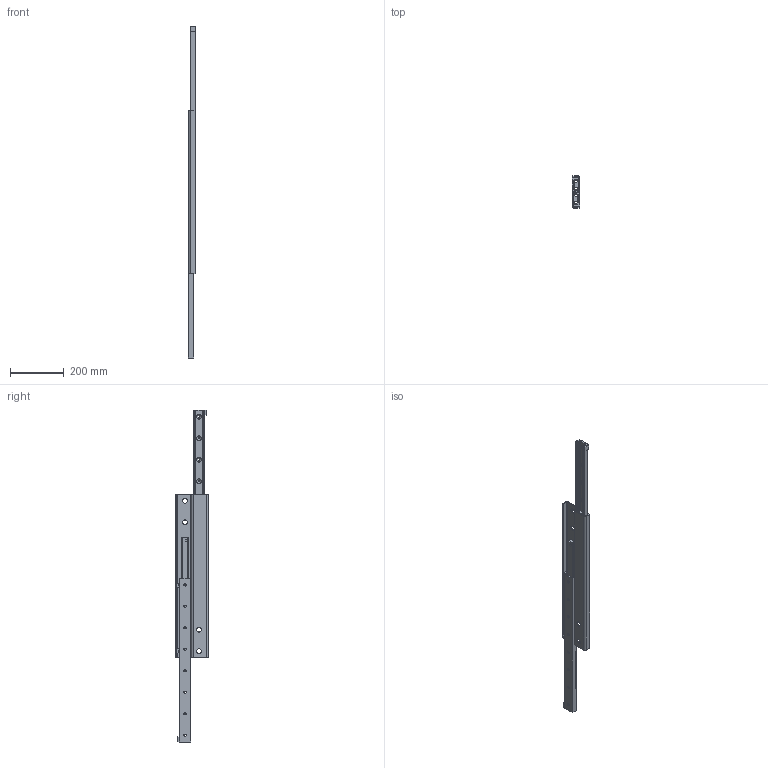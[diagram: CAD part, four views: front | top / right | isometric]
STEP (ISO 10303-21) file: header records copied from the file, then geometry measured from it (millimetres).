
FILE_DESCRIPTION(('STEP AP214'),'1');
FILE_NAME('rail_dss43-610_01.stp','2017-04-17T03:59:12',('TraceParts'),('TraceParts S.A.'),'Spatial InterOp 3D',' ',' ');
FILE_SCHEMA(('automotive_design'));
Length unit declared in the file: millimetre
Products named in the file (3): rail_dss43-610_01_1; rail_dss43-610_01_2; rail_dss43-610_01_3
Bounding box: 28 x 120 x 1236 mm (x, y, z)
Volume: 1086205.5 mm3; surface area: 439472.1 mm2
Topology: 3 solids, 3 shells, 262 faces, 706 edges, 460 vertices
Faces by surface type: plane 138, cylinder 92, cone 32
Entity records: 8351 total; most frequent: DIRECTION 1468, CARTESIAN_POINT 1431, ORIENTED_EDGE 1412, EDGE_CURVE 706, AXIS2_PLACEMENT_3D 497, LINE 474, VECTOR 474, VERTEX_POINT 460
